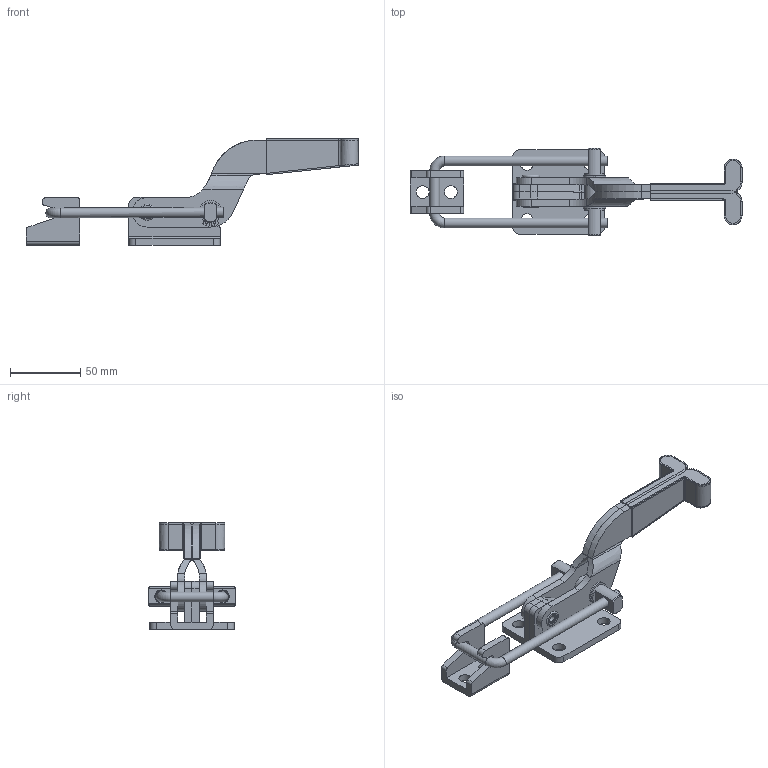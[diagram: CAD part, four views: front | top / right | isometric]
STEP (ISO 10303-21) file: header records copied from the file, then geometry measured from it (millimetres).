
FILE_DESCRIPTION(/* description */ (''),/* implementation_level */ '2;1');
FILE_NAME(/* name */ '\\NAS\db20\C-070-41FS\DR_C-070-41FS.stp',/* time_stamp */ '2018-03-02T11:04:45+09:00',/* author */ ('user'),/* organization */ (''),/* preprocessor_version */ 'ST-DEVELOPER v15.6',/* originating_system */ 'Autodesk Inventor 2015',/* authorisation */ '');
FILE_SCHEMA (('AUTOMOTIVE_DESIGN { 1 0 10303 214 3 1 1 }'));
Length unit declared in the file: millimetre
Products named in the file (7): DR_C-070-41FS-A; DR_C-070-41FS-B; DR_C-070-41FS-BR; DR_C-070-41FS-C; DR_스냅링; DR_C-070-41FS-H; DR_C-070-41FS
Bounding box: 235.64 x 62 x 75.79 mm (x, y, z)
Volume: 113296.1 mm3; surface area: 77744.3 mm2
Topology: 11 solids, 13 shells, 284 faces, 725 edges, 471 vertices
Faces by surface type: plane 129, cylinder 112, bspline 21, torus 12, cone 10
Full cylindrical faces by diameter (mm): 1.7 x4, 6 x3, 7 x3, 8 x2, 9 x6, 12.5 x2, 14 x5
Entity records: 8495 total; most frequent: CARTESIAN_POINT 1983, DIRECTION 1338, ORIENTED_EDGE 1258, EDGE_CURVE 633, AXIS2_PLACEMENT_3D 498, VERTEX_POINT 429, LINE 342, VECTOR 342
